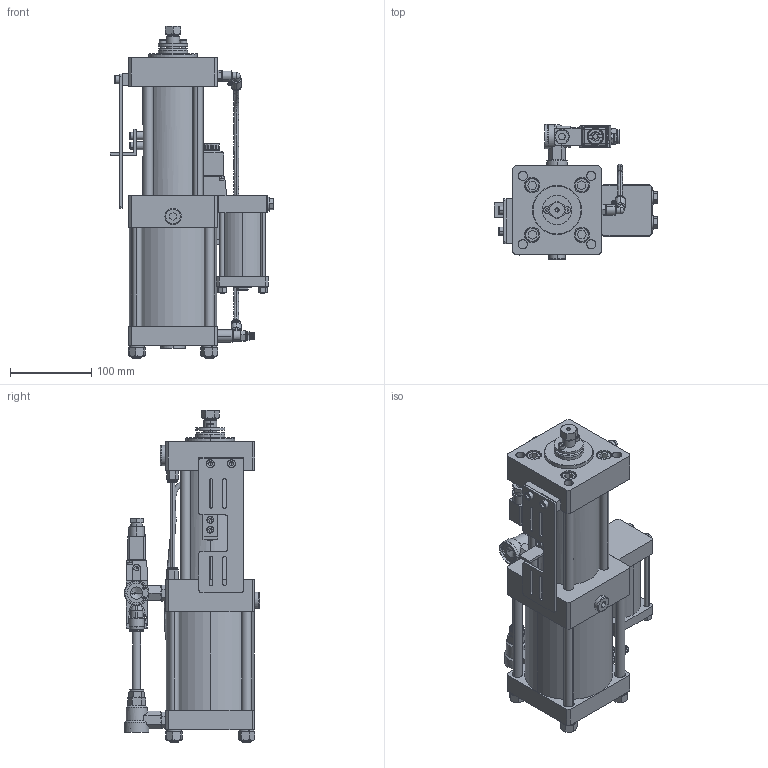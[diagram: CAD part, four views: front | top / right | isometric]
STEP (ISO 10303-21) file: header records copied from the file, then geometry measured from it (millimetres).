
FILE_DESCRIPTION (( 'STEP AP203' ), '1' );
FILE_NAME ('PCT2 10036 VC11.STEP', '2017-12-05T06:31:00', ( '' ), ( '' ), 'SwSTEP 2.0', 'SolidWorks 2015', '' );
FILE_SCHEMA (( 'CONFIG_CONTROL_DESIGN' ));
Length unit declared in the file: millimetre
Products named in the file (39): Part2^PCT; plain washer (type a)_is_IS 2016 A- 9; socket head cap screw_is_IS 2269 - M6 x 10-N; PCT2 10036 VC11; 18Janatics-Male elbow_Male threaded nipple_Dia 6 x 18; Janatics-WN015152WN015152_WN015152; hexagon fit bolt_is_IS 3640 - M8 x 25 x 14.5-N; INT REC; 18Janatics-Male elbow_elbow_DIA 6; Janatics-WN015151WN015151_WN015151; QEV; GASKET; 18Janatics-Male elbow_Collet cap_DIA 6; DC VALVE-Janatics-DEFAULT_DS255SR61; (normal) internal_is_IS 3075(Part2) NI- 26; INT TUBE; 1 8 BSP FCV-Janatics-GR2_GR1105006; Janatics-Male elbow_elbow_DIA 10; 1 4 BSP QEV; hexagon nut_is_IS 1363-2 - M6-N; INT FEC; Part3^PCT; Janatics-Male elbow_Collet cap_DIA 10; Janatics-Male connector_housing MC_WP2110650; 3 8 BSP PLUG; INT TR; Part4^PCT; Janatics-Male elbow_Male threaded nipple_Dia 10 x 14; Janatics-Male connector_Collet cap_DIA 6; SILENCER; spring lock washer 6735_is_IS 6735- 6; PCT CYL_PCT2 10036 VC11; spring lock washer 6735_is_IS 6735- 12; Janatics-Male elbow_Male elbow; 1 8 BSP PU 6_Janatics-Male connector_Male connector; CONTAINER PRA-03; socket head cap screw_is_IS 2269 - M5 x 8-N; hexagon nut style 1_is_IS 1364-3 - M12-W-N; Part1^PCT
Assembly tree (69 placements, depth 3):
  PCT2 10036 VC11
    PCT CYL_PCT2 10036 VC11
    socket head cap screw_is_IS 2269 - M5 x 8-N  x4
    socket head cap screw_is_IS 2269 - M6 x 10-N  x2
    CONTAINER PRA-03
      INT REC
      GASKET  x2
      INT TUBE
      INT FEC
      INT TR  x4
      spring lock washer 6735_is_IS 6735- 6  x4
      hexagon nut_is_IS 1363-2 - M6-N  x4
      3 8 BSP PLUG
      SILENCER
    plain washer (type a)_is_IS 2016 A- 9  x2
    hexagon fit bolt_is_IS 3640 - M8 x 25 x 14.5-N  x2
    1 4 BSP QEV
      QEV
      (normal) internal_is_IS 3075(Part2) NI- 26
    QEV
    1 8 BSP PU 6_Janatics-Male connector_Male connector  x2
      Janatics-Male connector_housing MC_WP2110650
      Janatics-Male connector_Collet cap_DIA 6
    Part2^PCT
    Janatics-WN015152WN015152_WN015152  x2
    Janatics-WN015151WN015151_WN015151
    DC VALVE-Janatics-DEFAULT_DS255SR61
    (normal) internal_is_IS 3075(Part2) NI- 26
    Janatics-Male elbow_Male elbow
      Janatics-Male elbow_elbow_DIA 10
      Janatics-Male elbow_Collet cap_DIA 10
      Janatics-Male elbow_Male threaded nipple_Dia 10 x 14
    Janatics-Male elbow_Collet cap_DIA 10  x2
    Janatics-Male elbow_Male threaded nipple_Dia 10 x 14  x2
    Part1^PCT
    SILENCER  x2
    18Janatics-Male elbow_Male threaded nipple_Dia 6 x 18
    18Janatics-Male elbow_elbow_DIA 6
    18Janatics-Male elbow_Collet cap_DIA 6
    1 8 BSP FCV-Janatics-GR2_GR1105006
    Part4^PCT
    spring lock washer 6735_is_IS 6735- 12  x4
    hexagon nut style 1_is_IS 1364-3 - M12-W-N  x4
  Part3^PCT
Bounding box: 200.6 x 166 x 408 mm (x, y, z)
Volume: 3385322.3 mm3; surface area: 509844.1 mm2
Topology: 87 solids, 88 shells, 4351 faces, 10952 edges, 6921 vertices
Faces by surface type: plane 1938, cylinder 1350, cone 726, torus 177, bspline 145, sphere 15
Entity records: 107612 total; most frequent: CARTESIAN_POINT 25809, ORIENTED_EDGE 16112, DIRECTION 15997, EDGE_CURVE 8056, AXIS2_PLACEMENT_3D 5848, VERTEX_POINT 5150, VECTOR 4301, LINE 4301
